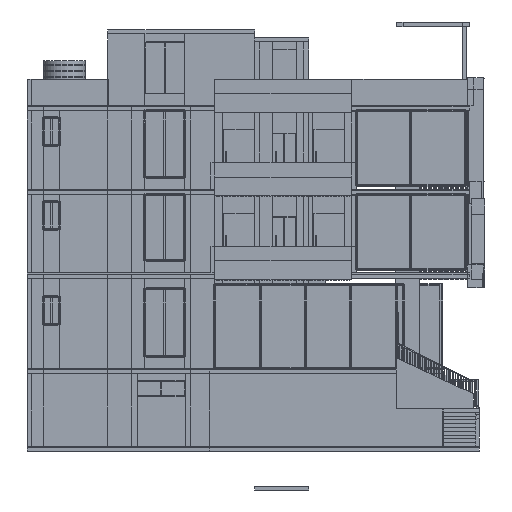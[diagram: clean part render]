
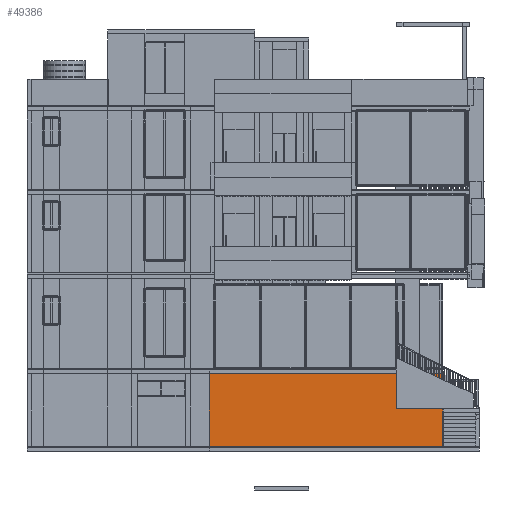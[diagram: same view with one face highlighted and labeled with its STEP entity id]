
A CAD part, left-side view. The second image highlights one B-rep face of the part: STEP entity #49386.
In plain terms, the highlighted planar face has unit normal (-1, 0, 0).
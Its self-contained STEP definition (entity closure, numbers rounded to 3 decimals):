
#49386 = ADVANCED_FACE('',(#49387),#49401,.F.);
#49387 = FACE_BOUND('',#49388,.F.);
#49388 = EDGE_LOOP('',(#49389,#49424,#49452,#49480));
#49389 = ORIENTED_EDGE('',*,*,#49390,.F.);
#49390 = EDGE_CURVE('',#49391,#49393,#49395,.T.);
#49391 = VERTEX_POINT('',#49392);
#49392 = CARTESIAN_POINT('',(203.2,1397.,-1447.8));
#49393 = VERTEX_POINT('',#49394);
#49394 = CARTESIAN_POINT('',(203.2,1397.,1321.562));
#49395 = SURFACE_CURVE('',#49396,(#49400,#49412),.PCURVE_S1.);
#49396 = LINE('',#49397,#49398);
#49397 = CARTESIAN_POINT('',(203.2,1397.,-1447.8));
#49398 = VECTOR('',#49399,1.);
#49399 = DIRECTION('',(0.,0.,1.));
#49400 = PCURVE('',#49401,#49406);
#49401 = PLANE('',#49402);
#49402 = AXIS2_PLACEMENT_3D('',#49403,#49404,#49405);
#49403 = CARTESIAN_POINT('',(203.2,1397.,-1447.8));
#49404 = DIRECTION('',(1.,0.,-0.));
#49405 = DIRECTION('',(0.,0.,1.));
#49406 = DEFINITIONAL_REPRESENTATION('',(#49407),#49411);
#49407 = LINE('',#49408,#49409);
#49408 = CARTESIAN_POINT('',(0.,0.));
#49409 = VECTOR('',#49410,1.);
#49410 = DIRECTION('',(1.,0.));
#49411 = ( GEOMETRIC_REPRESENTATION_CONTEXT(2) 
PARAMETRIC_REPRESENTATION_CONTEXT() REPRESENTATION_CONTEXT('2D SPACE',''
  ) );
#49412 = PCURVE('',#49413,#49418);
#49413 = PLANE('',#49414);
#49414 = AXIS2_PLACEMENT_3D('',#49415,#49416,#49417);
#49415 = CARTESIAN_POINT('',(203.2,1397.,-1447.8));
#49416 = DIRECTION('',(-0.,1.,0.));
#49417 = DIRECTION('',(0.,0.,1.));
#49418 = DEFINITIONAL_REPRESENTATION('',(#49419),#49423);
#49419 = LINE('',#49420,#49421);
#49420 = CARTESIAN_POINT('',(0.,0.));
#49421 = VECTOR('',#49422,1.);
#49422 = DIRECTION('',(1.,0.));
#49423 = ( GEOMETRIC_REPRESENTATION_CONTEXT(2) 
PARAMETRIC_REPRESENTATION_CONTEXT() REPRESENTATION_CONTEXT('2D SPACE',''
  ) );
#49424 = ORIENTED_EDGE('',*,*,#49425,.T.);
#49425 = EDGE_CURVE('',#49391,#49426,#49428,.T.);
#49426 = VERTEX_POINT('',#49427);
#49427 = CARTESIAN_POINT('',(203.2,10331.653,-1447.8));
#49428 = SURFACE_CURVE('',#49429,(#49433,#49440),.PCURVE_S1.);
#49429 = LINE('',#49430,#49431);
#49430 = CARTESIAN_POINT('',(203.2,1397.,-1447.8));
#49431 = VECTOR('',#49432,1.);
#49432 = DIRECTION('',(-0.,1.,0.));
#49433 = PCURVE('',#49401,#49434);
#49434 = DEFINITIONAL_REPRESENTATION('',(#49435),#49439);
#49435 = LINE('',#49436,#49437);
#49436 = CARTESIAN_POINT('',(0.,0.));
#49437 = VECTOR('',#49438,1.);
#49438 = DIRECTION('',(0.,-1.));
#49439 = ( GEOMETRIC_REPRESENTATION_CONTEXT(2) 
PARAMETRIC_REPRESENTATION_CONTEXT() REPRESENTATION_CONTEXT('2D SPACE',''
  ) );
#49440 = PCURVE('',#49441,#49446);
#49441 = PLANE('',#49442);
#49442 = AXIS2_PLACEMENT_3D('',#49443,#49444,#49445);
#49443 = CARTESIAN_POINT('',(203.2,1397.,-1447.8));
#49444 = DIRECTION('',(0.,0.,1.));
#49445 = DIRECTION('',(1.,0.,-0.));
#49446 = DEFINITIONAL_REPRESENTATION('',(#49447),#49451);
#49447 = LINE('',#49448,#49449);
#49448 = CARTESIAN_POINT('',(0.,0.));
#49449 = VECTOR('',#49450,1.);
#49450 = DIRECTION('',(0.,1.));
#49451 = ( GEOMETRIC_REPRESENTATION_CONTEXT(2) 
PARAMETRIC_REPRESENTATION_CONTEXT() REPRESENTATION_CONTEXT('2D SPACE',''
  ) );
#49452 = ORIENTED_EDGE('',*,*,#49453,.T.);
#49453 = EDGE_CURVE('',#49426,#49454,#49456,.T.);
#49454 = VERTEX_POINT('',#49455);
#49455 = CARTESIAN_POINT('',(203.2,10331.653,1321.562));
#49456 = SURFACE_CURVE('',#49457,(#49461,#49468),.PCURVE_S1.);
#49457 = LINE('',#49458,#49459);
#49458 = CARTESIAN_POINT('',(203.2,10331.653,-1447.8));
#49459 = VECTOR('',#49460,1.);
#49460 = DIRECTION('',(0.,0.,1.));
#49461 = PCURVE('',#49401,#49462);
#49462 = DEFINITIONAL_REPRESENTATION('',(#49463),#49467);
#49463 = LINE('',#49464,#49465);
#49464 = CARTESIAN_POINT('',(0.,-8934.653));
#49465 = VECTOR('',#49466,1.);
#49466 = DIRECTION('',(1.,0.));
#49467 = ( GEOMETRIC_REPRESENTATION_CONTEXT(2) 
PARAMETRIC_REPRESENTATION_CONTEXT() REPRESENTATION_CONTEXT('2D SPACE',''
  ) );
#49468 = PCURVE('',#49469,#49474);
#49469 = PLANE('',#49470);
#49470 = AXIS2_PLACEMENT_3D('',#49471,#49472,#49473);
#49471 = CARTESIAN_POINT('',(203.2,10331.653,-1447.8));
#49472 = DIRECTION('',(-0.,1.,0.));
#49473 = DIRECTION('',(0.,0.,1.));
#49474 = DEFINITIONAL_REPRESENTATION('',(#49475),#49479);
#49475 = LINE('',#49476,#49477);
#49476 = CARTESIAN_POINT('',(0.,0.));
#49477 = VECTOR('',#49478,1.);
#49478 = DIRECTION('',(1.,0.));
#49479 = ( GEOMETRIC_REPRESENTATION_CONTEXT(2) 
PARAMETRIC_REPRESENTATION_CONTEXT() REPRESENTATION_CONTEXT('2D SPACE',''
  ) );
#49480 = ORIENTED_EDGE('',*,*,#49481,.F.);
#49481 = EDGE_CURVE('',#49393,#49454,#49482,.T.);
#49482 = SURFACE_CURVE('',#49483,(#49487,#49494),.PCURVE_S1.);
#49483 = LINE('',#49484,#49485);
#49484 = CARTESIAN_POINT('',(203.2,1397.,1321.562));
#49485 = VECTOR('',#49486,1.);
#49486 = DIRECTION('',(-0.,1.,0.));
#49487 = PCURVE('',#49401,#49488);
#49488 = DEFINITIONAL_REPRESENTATION('',(#49489),#49493);
#49489 = LINE('',#49490,#49491);
#49490 = CARTESIAN_POINT('',(2769.362,0.));
#49491 = VECTOR('',#49492,1.);
#49492 = DIRECTION('',(0.,-1.));
#49493 = ( GEOMETRIC_REPRESENTATION_CONTEXT(2) 
PARAMETRIC_REPRESENTATION_CONTEXT() REPRESENTATION_CONTEXT('2D SPACE',''
  ) );
#49494 = PCURVE('',#49495,#49500);
#49495 = PLANE('',#49496);
#49496 = AXIS2_PLACEMENT_3D('',#49497,#49498,#49499);
#49497 = CARTESIAN_POINT('',(203.2,1397.,1321.562));
#49498 = DIRECTION('',(0.,0.,1.));
#49499 = DIRECTION('',(1.,0.,-0.));
#49500 = DEFINITIONAL_REPRESENTATION('',(#49501),#49505);
#49501 = LINE('',#49502,#49503);
#49502 = CARTESIAN_POINT('',(0.,0.));
#49503 = VECTOR('',#49504,1.);
#49504 = DIRECTION('',(0.,1.));
#49505 = ( GEOMETRIC_REPRESENTATION_CONTEXT(2) 
PARAMETRIC_REPRESENTATION_CONTEXT() REPRESENTATION_CONTEXT('2D SPACE',''
  ) );
